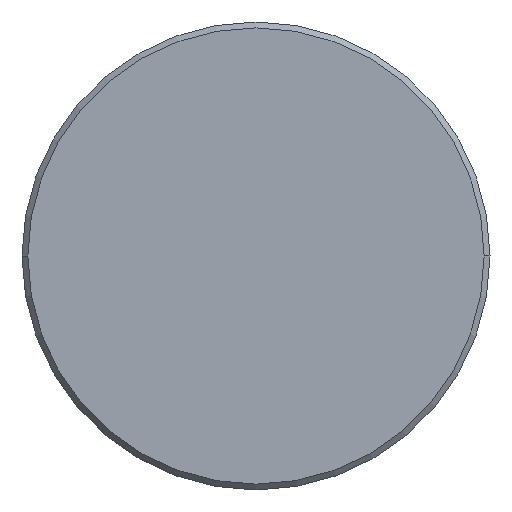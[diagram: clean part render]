
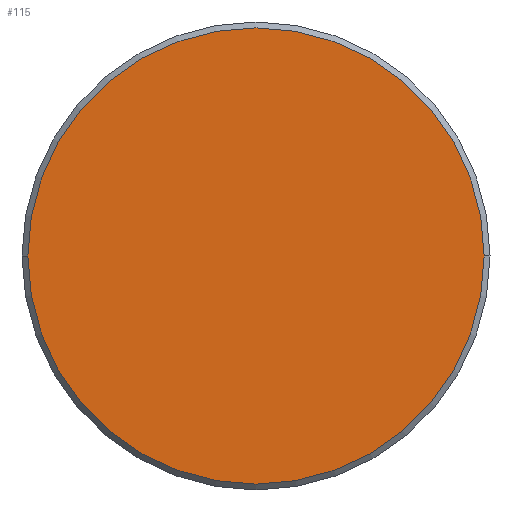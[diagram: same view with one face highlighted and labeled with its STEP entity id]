
A CAD part, front view. The second image highlights one B-rep face of the part: STEP entity #115.
In plain terms, the highlighted planar face has unit normal (0, -1, 0).
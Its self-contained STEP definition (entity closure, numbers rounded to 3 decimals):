
#1 = DIRECTION ( 'NONE',  ( 0., -1., 0. ) ) ;
#2 = DIRECTION ( 'NONE',  ( -1., 0., 0. ) ) ;
#57 = PLANE ( 'NONE',  #387 ) ;
#81 = VERTEX_POINT ( 'NONE', #585 ) ;
#100 = CARTESIAN_POINT ( 'NONE',  ( -1.945, 0., 0. ) ) ;
#108 = DIRECTION ( 'NONE',  ( 0., 1., 0. ) ) ;
#115 = ADVANCED_FACE ( '$', ( #538 ), #57, .T. ) ;
#120 = EDGE_CURVE ( 'NONE', #256, #81, #269, .T. ) ;
#156 = CARTESIAN_POINT ( 'NONE',  ( 0., 0., 0. ) ) ;
#229 = AXIS2_PLACEMENT_3D ( 'NONE', #156, #108, #2 ) ;
#256 = VERTEX_POINT ( 'NONE', #100 ) ;
#269 = CIRCLE ( 'NONE', #229, 1.945 ) ;
#270 = CARTESIAN_POINT ( 'NONE',  ( -1.945, 0., 0. ) ) ;
#361 = DIRECTION ( 'NONE',  ( -1., 0., 0. ) ) ;
#380 = EDGE_CURVE ( 'NONE', #81, #256, #602, .T. ) ;
#387 = AXIS2_PLACEMENT_3D ( 'NONE', #270, #1, #645 ) ;
#403 = DIRECTION ( 'NONE',  ( 0., 1., 0. ) ) ;
#404 = ORIENTED_EDGE ( 'NONE', *, *, #380, .F. ) ;
#462 = CARTESIAN_POINT ( 'NONE',  ( 0., 0., 0. ) ) ;
#487 = AXIS2_PLACEMENT_3D ( 'NONE', #462, #403, #361 ) ;
#538 = FACE_OUTER_BOUND ( 'NONE', #678, .T. ) ;
#585 = CARTESIAN_POINT ( 'NONE',  ( 1.945, 0., 0. ) ) ;
#602 = CIRCLE ( 'NONE', #487, 1.945 ) ;
#623 = ORIENTED_EDGE ( 'NONE', *, *, #120, .F. ) ;
#645 = DIRECTION ( 'NONE',  ( 0., 0., -1. ) ) ;
#678 = EDGE_LOOP ( 'NONE', ( #623, #404 ) ) ;
